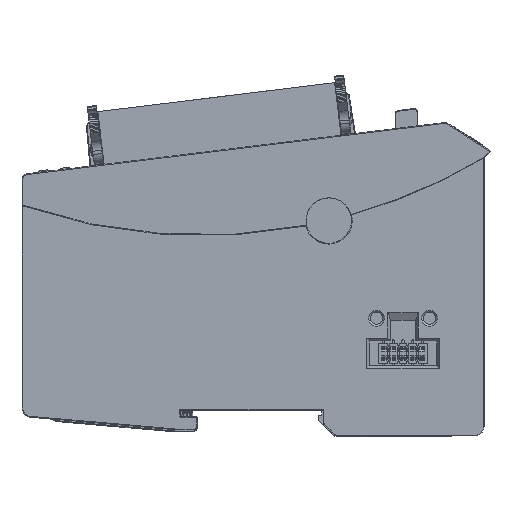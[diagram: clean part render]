
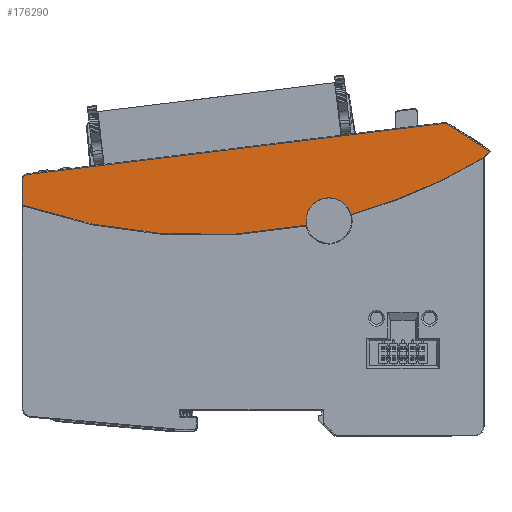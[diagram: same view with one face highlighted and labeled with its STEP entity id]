
A CAD part, top view. The second image highlights one B-rep face of the part: STEP entity #176290.
In plain terms, the highlighted planar face has unit normal (0, 0, 1).
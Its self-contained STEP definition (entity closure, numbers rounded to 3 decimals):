
#173276=AXIS2_PLACEMENT_3D('Circle Axis2P3D',#173274,#173275,$) ;
#173301=AXIS2_PLACEMENT_3D('Circle Axis2P3D',#173299,#173300,$) ;
#176127=AXIS2_PLACEMENT_3D('Circle Axis2P3D',#176125,#176126,$) ;
#176151=AXIS2_PLACEMENT_3D('Circle Axis2P3D',#176149,#176150,$) ;
#176164=AXIS2_PLACEMENT_3D('Plane Axis2P3D',#176161,#176162,#176163) ;
#176194=AXIS2_PLACEMENT_3D('Circle Axis2P3D',#176192,#176193,$) ;
#176226=AXIS2_PLACEMENT_3D('Circle Axis2P3D',#176224,#176225,$) ;
#176233=AXIS2_PLACEMENT_3D('Circle Axis2P3D',#176231,#176232,$) ;
#176269=AXIS2_PLACEMENT_3D('Circle Axis2P3D',#176267,#176268,$) ;
#153023=CARTESIAN_POINT('Vertex',(109.882,76.012,23.3)) ;
#153030=CARTESIAN_POINT('Vertex',(-0.258,62.488,23.3)) ;
#153033=CARTESIAN_POINT('Line Origine',(60.199,69.912,23.3)) ;
#173250=CARTESIAN_POINT('Vertex',(120.249,66.935,23.3)) ;
#173271=CARTESIAN_POINT('Vertex',(120.3,66.949,23.3)) ;
#173274=CARTESIAN_POINT('Axis2P3D Location',(120.3,66.849,23.3)) ;
#173296=CARTESIAN_POINT('Vertex',(120.399,67.159,23.3)) ;
#173299=CARTESIAN_POINT('Axis2P3D Location',(120.6,66.936,23.3)) ;
#176122=CARTESIAN_POINT('Vertex',(-1.4,61.198,23.3)) ;
#176125=CARTESIAN_POINT('Axis2P3D Location',(-0.1,61.198,23.3)) ;
#176146=CARTESIAN_POINT('Vertex',(110.749,75.812,23.3)) ;
#176149=CARTESIAN_POINT('Axis2P3D Location',(110.041,74.722,23.3)) ;
#176161=CARTESIAN_POINT('Axis2P3D Location',(-1.6,-1.675,23.3)) ;
#176166=CARTESIAN_POINT('Line Origine',(121.058,67.752,23.3)) ;
#176170=CARTESIAN_POINT('Vertex',(121.716,68.345,23.3)) ;
#176173=CARTESIAN_POINT('Line Origine',(121.673,68.545,23.3)) ;
#176177=CARTESIAN_POINT('Vertex',(121.631,68.745,23.3)) ;
#176180=CARTESIAN_POINT('Line Origine',(116.19,72.278,23.3)) ;
#176185=CARTESIAN_POINT('Line Origine',(-1.4,57.827,23.3)) ;
#176189=CARTESIAN_POINT('Vertex',(-1.4,54.456,23.3)) ;
#176192=CARTESIAN_POINT('Axis2P3D Location',(46.007,191.487,23.3)) ;
#176196=CARTESIAN_POINT('Vertex',(73.331,49.085,23.3)) ;
#176200=CARTESIAN_POINT('Control Point',(73.331,49.085,23.3)) ;
#176201=CARTESIAN_POINT('Control Point',(73.344,49.087,23.3)) ;
#176202=CARTESIAN_POINT('Control Point',(73.357,49.088,23.3)) ;
#176203=CARTESIAN_POINT('Control Point',(73.37,49.089,23.3)) ;
#176204=CARTESIAN_POINT('Control Point',(73.396,49.087,23.3)) ;
#176205=CARTESIAN_POINT('Control Point',(73.421,49.082,23.3)) ;
#176206=CARTESIAN_POINT('Control Point',(73.433,49.078,23.3)) ;
#176207=CARTESIAN_POINT('Control Point',(73.457,49.069,23.3)) ;
#176208=CARTESIAN_POINT('Control Point',(73.48,49.055,23.3)) ;
#176209=CARTESIAN_POINT('Control Point',(73.49,49.048,23.3)) ;
#176210=CARTESIAN_POINT('Control Point',(73.51,49.031,23.3)) ;
#176211=CARTESIAN_POINT('Control Point',(73.527,49.012,23.3)) ;
#176212=CARTESIAN_POINT('Control Point',(73.535,49.001,23.3)) ;
#176213=CARTESIAN_POINT('Control Point',(73.545,48.984,23.3)) ;
#176214=CARTESIAN_POINT('Control Point',(73.553,48.967,23.3)) ;
#176215=CARTESIAN_POINT('Control Point',(73.555,48.961,23.3)) ;
#176216=CARTESIAN_POINT('Control Point',(73.559,48.952,23.3)) ;
#176217=CARTESIAN_POINT('Control Point',(73.561,48.943,23.3)) ;
#176218=CARTESIAN_POINT('Control Point',(73.562,48.94,23.3)) ;
#176219=CARTESIAN_POINT('Control Point',(73.563,48.937,23.3)) ;
#176220=CARTESIAN_POINT('Control Point',(73.563,48.935,23.3)) ;
#176221=CARTESIAN_POINT('Vertex',(73.563,48.935,23.3)) ;
#176224=CARTESIAN_POINT('Axis2P3D Location',(79.4,50.325,23.3)) ;
#176228=CARTESIAN_POINT('Vertex',(73.4,50.325,23.3)) ;
#176231=CARTESIAN_POINT('Axis2P3D Location',(79.4,50.325,23.3)) ;
#176235=CARTESIAN_POINT('Vertex',(85.194,51.883,23.3)) ;
#176239=CARTESIAN_POINT('Control Point',(85.194,51.883,23.3)) ;
#176240=CARTESIAN_POINT('Control Point',(85.199,51.864,23.3)) ;
#176241=CARTESIAN_POINT('Control Point',(85.204,51.845,23.3)) ;
#176242=CARTESIAN_POINT('Control Point',(85.209,51.826,23.3)) ;
#176243=CARTESIAN_POINT('Control Point',(85.214,51.807,23.3)) ;
#176244=CARTESIAN_POINT('Control Point',(85.219,51.788,23.3)) ;
#176245=CARTESIAN_POINT('Vertex',(85.219,51.788,23.3)) ;
#176249=CARTESIAN_POINT('Control Point',(85.219,51.788,23.3)) ;
#176250=CARTESIAN_POINT('Control Point',(85.217,51.797,23.3)) ;
#176251=CARTESIAN_POINT('Control Point',(85.215,51.807,23.3)) ;
#176252=CARTESIAN_POINT('Control Point',(85.215,51.816,23.3)) ;
#176253=CARTESIAN_POINT('Control Point',(85.217,51.835,23.3)) ;
#176254=CARTESIAN_POINT('Control Point',(85.223,51.852,23.3)) ;
#176255=CARTESIAN_POINT('Control Point',(85.227,51.861,23.3)) ;
#176256=CARTESIAN_POINT('Control Point',(85.238,51.877,23.3)) ;
#176257=CARTESIAN_POINT('Control Point',(85.251,51.89,23.3)) ;
#176258=CARTESIAN_POINT('Control Point',(85.259,51.896,23.3)) ;
#176259=CARTESIAN_POINT('Control Point',(85.269,51.902,23.3)) ;
#176260=CARTESIAN_POINT('Control Point',(85.28,51.906,23.3)) ;
#176261=CARTESIAN_POINT('Control Point',(85.283,51.907,23.3)) ;
#176262=CARTESIAN_POINT('Control Point',(85.286,51.908,23.3)) ;
#176263=CARTESIAN_POINT('Control Point',(85.289,51.909,23.3)) ;
#176264=CARTESIAN_POINT('Vertex',(85.289,51.909,23.3)) ;
#176267=CARTESIAN_POINT('Axis2P3D Location',(46.007,191.487,23.3)) ;
#153034=DIRECTION('Vector Direction',(-0.993,-0.122,0.)) ;
#173275=DIRECTION('Axis2P3D Direction',(0.,0.,1.)) ;
#173300=DIRECTION('Axis2P3D Direction',(0.,0.,1.)) ;
#176126=DIRECTION('Axis2P3D Direction',(0.,0.,1.)) ;
#176150=DIRECTION('Axis2P3D Direction',(0.,0.,1.)) ;
#176162=DIRECTION('Axis2P3D Direction',(0.,0.,1.)) ;
#176163=DIRECTION('Axis2P3D XDirection',(1.,0.,0.)) ;
#176167=DIRECTION('Vector Direction',(0.743,0.669,0.)) ;
#176174=DIRECTION('Vector Direction',(-0.208,0.978,0.)) ;
#176181=DIRECTION('Vector Direction',(0.839,-0.545,0.)) ;
#176186=DIRECTION('Vector Direction',(0.,1.,0.)) ;
#176193=DIRECTION('Axis2P3D Direction',(0.,0.,1.)) ;
#176225=DIRECTION('Axis2P3D Direction',(0.,0.,1.)) ;
#176232=DIRECTION('Axis2P3D Direction',(0.,0.,1.)) ;
#176268=DIRECTION('Axis2P3D Direction',(0.,0.,1.)) ;
#153035=VECTOR('Line Direction',#153034,1.) ;
#176168=VECTOR('Line Direction',#176167,1.) ;
#176175=VECTOR('Line Direction',#176174,1.) ;
#176182=VECTOR('Line Direction',#176181,1.) ;
#176187=VECTOR('Line Direction',#176186,1.) ;
#176273=ORIENTED_EDGE('',*,*,#173278,.F.) ;
#176274=ORIENTED_EDGE('',*,*,#173303,.T.) ;
#176275=ORIENTED_EDGE('',*,*,#176172,.T.) ;
#176276=ORIENTED_EDGE('',*,*,#176179,.F.) ;
#176277=ORIENTED_EDGE('',*,*,#176184,.T.) ;
#176278=ORIENTED_EDGE('',*,*,#176153,.T.) ;
#176279=ORIENTED_EDGE('',*,*,#153037,.T.) ;
#176280=ORIENTED_EDGE('',*,*,#176129,.T.) ;
#176281=ORIENTED_EDGE('',*,*,#176191,.T.) ;
#176282=ORIENTED_EDGE('',*,*,#176198,.T.) ;
#176283=ORIENTED_EDGE('',*,*,#176223,.F.) ;
#176284=ORIENTED_EDGE('',*,*,#176230,.F.) ;
#176285=ORIENTED_EDGE('',*,*,#176237,.F.) ;
#176286=ORIENTED_EDGE('',*,*,#176247,.T.) ;
#176287=ORIENTED_EDGE('',*,*,#176266,.F.) ;
#176288=ORIENTED_EDGE('',*,*,#176271,.T.) ;
#176290=ADVANCED_FACE('K\X2\00F6\X0\rper.2',(#176289),#176165,.T.) ;
#176199=B_SPLINE_CURVE_WITH_KNOTS('',5,(#176200,#176201,#176202,#176203,#176204,#176205,#176206,#176207,#176208,#176209,#176210,#176211,#176212,#176213,#176214,#176215,#176216,#176217,#176218,#176219,#176220),.UNSPECIFIED.,.F.,.U.,(6,3,3,3,3,3,6),(0.,0.091,0.182,0.274,0.365,0.41,0.431),.UNSPECIFIED.) ;
#176238=B_SPLINE_CURVE_WITH_KNOTS('',5,(#176239,#176240,#176241,#176242,#176243,#176244),.UNSPECIFIED.,.F.,.U.,(6,6),(0.,0.14),.UNSPECIFIED.) ;
#176248=B_SPLINE_CURVE_WITH_KNOTS('',5,(#176249,#176250,#176251,#176252,#176253,#176254,#176255,#176256,#176257,#176258,#176259,#176260,#176261,#176262,#176263),.UNSPECIFIED.,.F.,.U.,(6,3,3,3,6),(0.,0.055,0.11,0.166,0.183),.UNSPECIFIED.) ;
#173277=CIRCLE('generated circle',#173276,0.1) ;
#173302=CIRCLE('generated circle',#173301,0.3) ;
#176128=CIRCLE('generated circle',#176127,1.3) ;
#176152=CIRCLE('generated circle',#176151,1.3) ;
#176195=CIRCLE('generated circle',#176194,145.) ;
#176227=CIRCLE('generated circle',#176226,6.) ;
#176234=CIRCLE('generated circle',#176233,6.) ;
#176270=CIRCLE('generated circle',#176269,145.) ;
#153037=EDGE_CURVE('',#153024,#153031,#153036,.T.) ;
#173278=EDGE_CURVE('',#173272,#173251,#173277,.T.) ;
#173303=EDGE_CURVE('',#173272,#173297,#173302,.F.) ;
#176129=EDGE_CURVE('',#153031,#176123,#176128,.T.) ;
#176153=EDGE_CURVE('',#176147,#153024,#176152,.T.) ;
#176172=EDGE_CURVE('',#173297,#176171,#176169,.T.) ;
#176179=EDGE_CURVE('',#176178,#176171,#176176,.F.) ;
#176184=EDGE_CURVE('',#176178,#176147,#176183,.F.) ;
#176191=EDGE_CURVE('',#176123,#176190,#176188,.F.) ;
#176198=EDGE_CURVE('',#176190,#176197,#176195,.T.) ;
#176223=EDGE_CURVE('',#176222,#176197,#176199,.F.) ;
#176230=EDGE_CURVE('',#176229,#176222,#176227,.T.) ;
#176237=EDGE_CURVE('',#176236,#176229,#176234,.T.) ;
#176247=EDGE_CURVE('',#176236,#176246,#176238,.T.) ;
#176266=EDGE_CURVE('',#176265,#176246,#176248,.F.) ;
#176271=EDGE_CURVE('',#176265,#173251,#176270,.T.) ;
#176272=EDGE_LOOP('',(#176273,#176274,#176275,#176276,#176277,#176278,#176279,#176280,#176281,#176282,#176283,#176284,#176285,#176286,#176287,#176288)) ;
#176289=FACE_OUTER_BOUND('',#176272,.T.) ;
#153036=LINE('Line',#153033,#153035) ;
#176169=LINE('Line',#176166,#176168) ;
#176176=LINE('Line',#176173,#176175) ;
#176183=LINE('Line',#176180,#176182) ;
#176188=LINE('Line',#176185,#176187) ;
#176165=PLANE('Plane',#176164) ;
#153024=VERTEX_POINT('',#153023) ;
#153031=VERTEX_POINT('',#153030) ;
#173251=VERTEX_POINT('',#173250) ;
#173272=VERTEX_POINT('',#173271) ;
#173297=VERTEX_POINT('',#173296) ;
#176123=VERTEX_POINT('',#176122) ;
#176147=VERTEX_POINT('',#176146) ;
#176171=VERTEX_POINT('',#176170) ;
#176178=VERTEX_POINT('',#176177) ;
#176190=VERTEX_POINT('',#176189) ;
#176197=VERTEX_POINT('',#176196) ;
#176222=VERTEX_POINT('',#176221) ;
#176229=VERTEX_POINT('',#176228) ;
#176236=VERTEX_POINT('',#176235) ;
#176246=VERTEX_POINT('',#176245) ;
#176265=VERTEX_POINT('',#176264) ;
